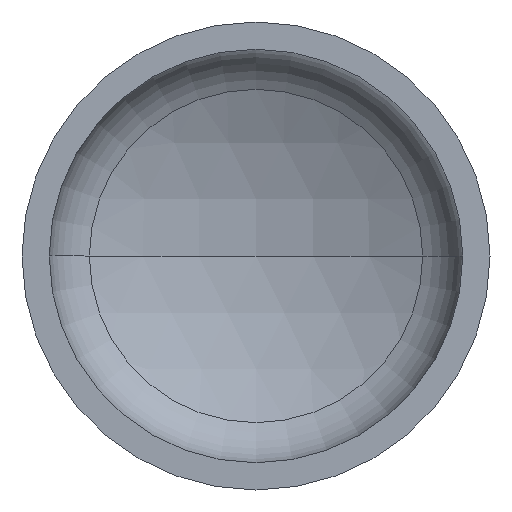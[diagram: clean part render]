
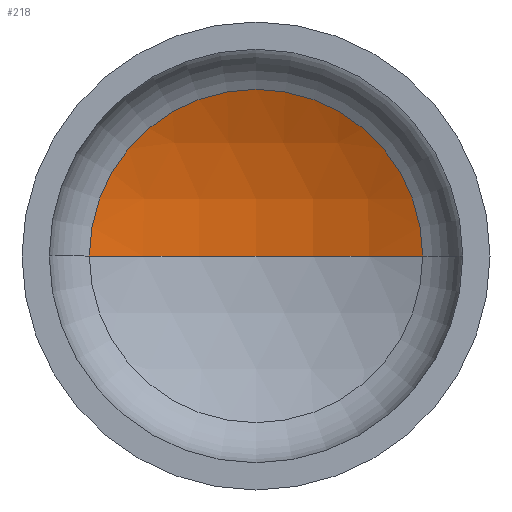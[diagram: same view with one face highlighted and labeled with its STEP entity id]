
A CAD part, front view. The second image highlights one B-rep face of the part: STEP entity #218.
In plain terms, the highlighted spherical face has radius 880 mm.
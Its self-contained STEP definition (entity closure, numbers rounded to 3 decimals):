
#9 = DIRECTION ( 'NONE',  ( 1., 0., 0. ) ) ;
#13 = AXIS2_PLACEMENT_3D ( 'NONE', #283, #261, #9 ) ;
#17 = AXIS2_PLACEMENT_3D ( 'NONE', #289, #99, #315 ) ;
#18 = AXIS2_PLACEMENT_3D ( 'NONE', #149, #150, #160 ) ;
#20 = DIRECTION ( 'NONE',  ( 0., 0., -1. ) ) ;
#29 = EDGE_LOOP ( 'NONE', ( #123, #145, #88 ) ) ;
#32 = AXIS2_PLACEMENT_3D ( 'NONE', #409, #20, #211 ) ;
#43 = VERTEX_POINT ( 'NONE', #242 ) ;
#66 = FACE_OUTER_BOUND ( 'NONE', #29, .T. ) ;
#86 = SPHERICAL_SURFACE ( 'NONE', #32, 880. ) ;
#87 = VERTEX_POINT ( 'NONE', #280 ) ;
#88 = ORIENTED_EDGE ( 'NONE', *, *, #350, .T. ) ;
#99 = DIRECTION ( 'NONE',  ( 0., 0., -1. ) ) ;
#123 = ORIENTED_EDGE ( 'NONE', *, *, #354, .F. ) ;
#145 = ORIENTED_EDGE ( 'NONE', *, *, #353, .T. ) ;
#149 = CARTESIAN_POINT ( 'NONE',  ( 0., 272.234, 0. ) ) ;
#150 = DIRECTION ( 'NONE',  ( 0., -1., 0. ) ) ;
#160 = DIRECTION ( 'NONE',  ( 1., 0., 0. ) ) ;
#165 = VERTEX_POINT ( 'NONE', #355 ) ;
#178 = CIRCLE ( 'NONE', #17, 880. ) ;
#211 = DIRECTION ( 'NONE',  ( -1., 0., 0. ) ) ;
#218 = ADVANCED_FACE ( 'NONE', ( #66 ), #86, .F. ) ;
#237 = CIRCLE ( 'NONE', #18, 391.662 ) ;
#242 = CARTESIAN_POINT ( 'NONE',  ( -391.662, 272.234, 0. ) ) ;
#261 = DIRECTION ( 'NONE',  ( 0., 0., 1. ) ) ;
#280 = CARTESIAN_POINT ( 'NONE',  ( 0., 364.198, 0. ) ) ;
#283 = CARTESIAN_POINT ( 'NONE',  ( 0., -515.802, 0. ) ) ;
#289 = CARTESIAN_POINT ( 'NONE',  ( 0., -515.802, 0. ) ) ;
#315 = DIRECTION ( 'NONE',  ( -1., 0., 0. ) ) ;
#350 = EDGE_CURVE ( 'NONE', #165, #43, #237, .T. ) ;
#353 = EDGE_CURVE ( 'NONE', #87, #165, #178, .T. ) ;
#354 = EDGE_CURVE ( 'NONE', #87, #43, #405, .T. ) ;
#355 = CARTESIAN_POINT ( 'NONE',  ( 391.662, 272.234, 0. ) ) ;
#405 = CIRCLE ( 'NONE', #13, 880. ) ;
#409 = CARTESIAN_POINT ( 'NONE',  ( 0., -515.802, 0. ) ) ;
